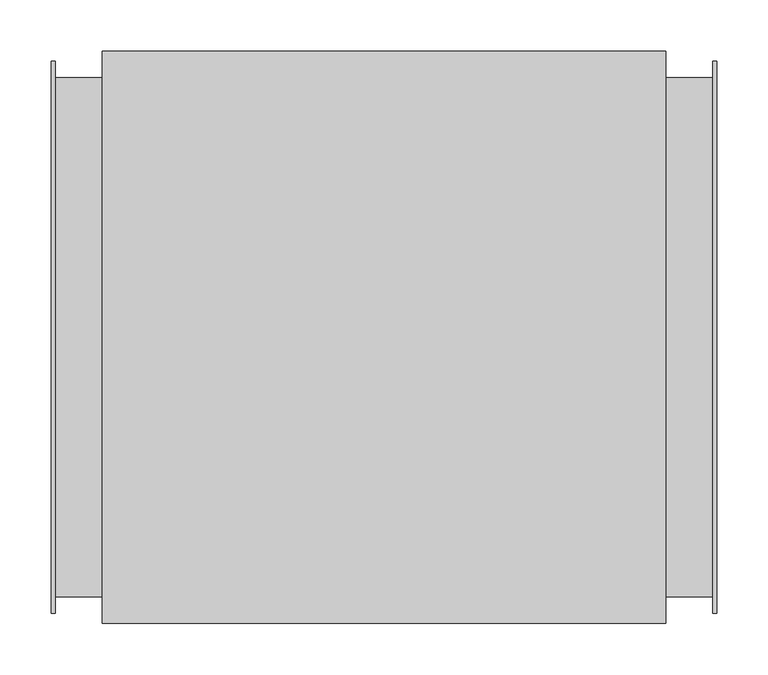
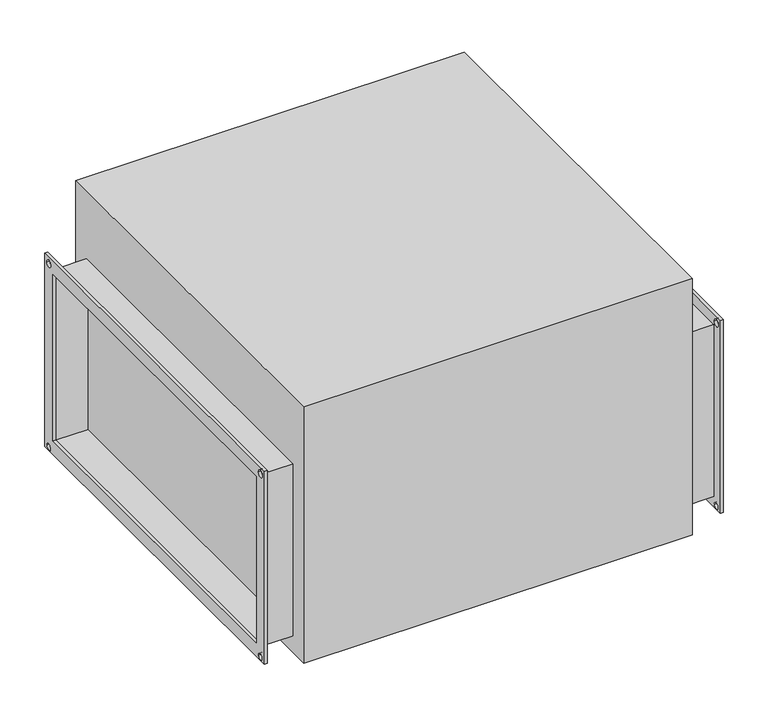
"""IFC4 building model written with IfcOpenShell, lengths in millimetres: proxy geometry."""

from ifc_helpers import new_model, si_unit, frame, origin, place, context, project, spatial, polyline, circle_curve, outline, extrude, source, transform, mapped, element, save
from ifc_brep_helpers import plane_surface, revolved_surface, advanced_brep


def mechanical_equipment_9b219624(model_context):
    return source(origin(), model_context, "Body", "SolidModel", [
        advanced_brep(
        [(321.5, 270.0, 145.0), (321.5, 270.0, -145.0), (321.5, 260.0, -145.0), (321.5, 265.0, -140.0), (321.5, 255.0, -140.0), (321.5, -260.0, -145.0), (321.5, -255.0, -140.0), (321.5, -265.0, -140.0), (321.5, -270.0, -145.0), (321.5, -270.0, 145.0), (321.5, 250.0, 125.0), (321.5, -250.0, 125.0), (321.5, -250.0, -125.0), (321.5, 250.0, -125.0), (321.5, 255.0, 135.0), (321.5, 265.0, 135.0), (321.5, -265.0, 135.0), (321.5, -255.0, 135.0), (325.5, 270.0, 145.0), (325.5, -270.0, 145.0), (325.5, -270.0, -145.0), (325.5, -260.0, -145.0), (325.5, -265.0, -140.0), (325.5, -255.0, -140.0), (325.5, 260.0, -145.0), (325.5, 255.0, -140.0), (325.5, 265.0, -140.0), (325.5, 270.0, -145.0), (325.5, 250.0, 125.0), (325.5, 250.0, -125.0), (325.5, -250.0, -125.0), (325.5, -250.0, 125.0), (325.5, 265.0, 135.0), (325.5, 255.0, 135.0), (325.5, -255.0, 135.0), (325.5, -265.0, 135.0)],
        [
            (0, 1),
            (1, 2),
            (2, 3, circle_curve(frame((321.5, 260.0, -140.0), z_axis=(1.0, 0.0, 0.0), x_axis=(0.0, 1.0, 0.0)), 5.0)),
            (3, 4, circle_curve(frame((321.5, 260.0, -140.0), z_axis=(1.0, 0.0, 0.0), x_axis=(0.0, 1.0, 0.0)), 5.0)),
            (4, 2, circle_curve(frame((321.5, 260.0, -140.0), z_axis=(1.0, 0.0, 0.0), x_axis=(0.0, 1.0, 0.0)), 5.0)),
            (2, 5),
            (5, 6, circle_curve(frame((321.5, -260.0, -140.0), z_axis=(1.0, 0.0, 0.0), x_axis=(0.0, 1.0, 0.0)), 5.0)),
            (6, 7, circle_curve(frame((321.5, -260.0, -140.0), z_axis=(1.0, 0.0, 0.0), x_axis=(0.0, 1.0, 0.0)), 5.0)),
            (7, 5, circle_curve(frame((321.5, -260.0, -140.0), z_axis=(1.0, 0.0, 0.0), x_axis=(0.0, 1.0, 0.0)), 5.0)),
            (5, 8),
            (8, 9),
            (9, 0),
            (10, 11),
            (11, 12),
            (12, 13),
            (13, 10),
            (14, 15, circle_curve(frame((321.5, 260.0, 135.0), z_axis=(1.0, 0.0, 0.0), x_axis=(0.0, 1.0, 0.0)), 5.0)),
            (15, 14, circle_curve(frame((321.5, 260.0, 135.0), z_axis=(1.0, 0.0, 0.0), x_axis=(0.0, 1.0, 0.0)), 5.0)),
            (16, 17, circle_curve(frame((321.5, -260.0, 135.0), z_axis=(1.0, 0.0, 0.0), x_axis=(0.0, 1.0, 0.0)), 5.0)),
            (17, 16, circle_curve(frame((321.5, -260.0, 135.0), z_axis=(1.0, 0.0, 0.0), x_axis=(0.0, 1.0, 0.0)), 5.0)),
            (18, 19),
            (19, 20),
            (20, 21),
            (21, 22, circle_curve(frame((325.5, -260.0, -140.0), z_axis=(-1.0, 0.0, 0.0), x_axis=(0.0, 1.0, 0.0)), 5.0)),
            (22, 23, circle_curve(frame((325.5, -260.0, -140.0), z_axis=(-1.0, 0.0, 0.0), x_axis=(0.0, 1.0, 0.0)), 5.0)),
            (23, 21, circle_curve(frame((325.5, -260.0, -140.0), z_axis=(-1.0, 0.0, 0.0), x_axis=(0.0, 1.0, 0.0)), 5.0)),
            (21, 24),
            (24, 25, circle_curve(frame((325.5, 260.0, -140.0), z_axis=(-1.0, 0.0, 0.0), x_axis=(0.0, 1.0, 0.0)), 5.0)),
            (25, 26, circle_curve(frame((325.5, 260.0, -140.0), z_axis=(-1.0, 0.0, 0.0), x_axis=(0.0, 1.0, 0.0)), 5.0)),
            (26, 24, circle_curve(frame((325.5, 260.0, -140.0), z_axis=(-1.0, 0.0, 0.0), x_axis=(0.0, 1.0, 0.0)), 5.0)),
            (24, 27),
            (27, 18),
            (28, 29),
            (29, 30),
            (30, 31),
            (31, 28),
            (32, 33, circle_curve(frame((325.5, 260.0, 135.0), z_axis=(-1.0, 0.0, 0.0), x_axis=(0.0, 1.0, 0.0)), 5.0)),
            (33, 32, circle_curve(frame((325.5, 260.0, 135.0), z_axis=(-1.0, 0.0, 0.0), x_axis=(0.0, 1.0, 0.0)), 5.0)),
            (34, 35, circle_curve(frame((325.5, -260.0, 135.0), z_axis=(-1.0, 0.0, 0.0), x_axis=(0.0, 1.0, 0.0)), 5.0)),
            (35, 34, circle_curve(frame((325.5, -260.0, 135.0), z_axis=(-1.0, 0.0, 0.0), x_axis=(0.0, 1.0, 0.0)), 5.0)),
            (13, 29),
            (28, 10),
            (12, 30),
            (11, 31),
            (9, 19),
            (18, 0),
            (8, 20),
            (1, 27),
            (14, 33),
            (32, 15),
            (16, 35),
            (34, 17),
            (7, 22),
            (23, 6),
            (4, 25),
            (26, 3),
        ],
        [
            plane_surface(frame((321.5, 250.0, -125.0), z_axis=(-1.0, 0.0, 0.0), x_axis=(0.0, 0.0, 1.0))),
            plane_surface(frame((325.5, 250.0, -125.0), z_axis=(1.0, 0.0, 0.0), x_axis=(0.0, 0.0, -1.0))),
            plane_surface(frame((325.5, 250.0, 125.0), z_axis=(0.0, -1.0, 0.0), x_axis=(-1.0, 0.0, 0.0))),
            plane_surface(frame((325.5, 250.0, -125.0), z_axis=(0.0, 0.0, 1.0), x_axis=(-1.0, 0.0, 0.0))),
            plane_surface(frame((325.5, -250.0, -125.0), z_axis=(0.0, 1.0, 0.0), x_axis=(-1.0, 0.0, 0.0))),
            plane_surface(frame((325.5, -250.0, 125.0), z_axis=(0.0, 0.0, -1.0), x_axis=(-1.0, 0.0, 0.0))),
            plane_surface(frame((325.5, 270.0, 145.0), z_axis=(0.0, 0.0, 1.0), x_axis=(-1.0, 0.0, 0.0))),
            plane_surface(frame((325.5, -270.0, 145.0), z_axis=(0.0, -1.0, 0.0), x_axis=(-1.0, 0.0, 0.0))),
            plane_surface(frame((325.5, -270.0, -145.0), z_axis=(0.0, 0.0, -1.0), x_axis=(-1.0, 0.0, 0.0))),
            plane_surface(frame((325.5, 270.0, -145.0), z_axis=(0.0, 1.0, 0.0), x_axis=(-1.0, 0.0, 0.0))),
            revolved_surface(polyline([(325.5, 265.0, 135.0), (321.5, 265.0, 135.0)]), (-325.5, 260.0, 135.0), (1.0, 0.0, 0.0)),
            revolved_surface(polyline([(325.5, -255.0, 135.0), (321.5, -255.0, 135.0)]), (0.0, -260.0, 135.0), (1.0, 0.0, 0.0)),
            revolved_surface(polyline([(325.5, -255.0, -140.0), (321.5, -255.0, -140.0)]), (0.0, -260.0, -140.0), (1.0, 0.0, 0.0)),
            revolved_surface(polyline([(325.5, 265.0, -140.0), (321.5, 265.0, -140.0)]), (0.0, 260.0, -140.0), (1.0, 0.0, 0.0)),
        ],
        [
            (0, [[1, 2, 3, 4, 5, 6, 7, 8, 9, 10, 11, 12], [13, 14, 15, 16], [17, 18], [19, 20]]),
            (1, [[21, 22, 23, 24, 25, 26, 27, 28, 29, 30, 31, 32], [33, 34, 35, 36], [37, 38], [39, 40]]),
            (2, [[-16, 41, -33, 42]]),
            (3, [[-15, 43, -34, -41]]),
            (4, [[-14, 44, -35, -43]]),
            (5, [[-13, -42, -36, -44]]),
            (6, [[-12, 45, -21, 46]]),
            (7, [[-11, 47, -22, -45]]),
            (8, [[-47, -10, -6, -2, 48, -31, -27, -23]]),
            (9, [[-1, -46, -32, -48]]),
            (10, [[49, -37, 50, -17]]),
            (10, [[-49, -18, -50, -38]]),
            (11, [[51, -39, 52, -19]]),
            (11, [[-51, -20, -52, -40]]),
            (12, [[53, -24, -26, 54, -7, -9]]),
            (12, [[-53, -8, -54, -25]]),
            (13, [[55, -28, -30, 56, -3, -5]]),
            (13, [[-55, -4, -56, -29]]),
        ],
    ),
        advanced_brep(
        [(-325.5, -270.0, 145.0), (-325.5, 270.0, 145.0), (-325.5, 270.0, -145.0), (-325.5, 260.0, -145.0), (-325.5, 265.0, -140.0), (-325.5, 255.0, -140.0), (-325.5, -260.0, -145.0), (-325.5, -255.0, -140.0), (-325.5, -265.0, -140.0), (-325.5, -270.0, -145.0), (-325.5, -250.0, 125.0), (-325.5, -250.0, -125.0), (-325.5, 250.0, -125.0), (-325.5, 250.0, 125.0), (-325.5, 255.0, 135.0), (-325.5, 265.0, 135.0), (-325.5, -265.0, 135.0), (-325.5, -255.0, 135.0), (-321.5, -270.0, 145.0), (-321.5, -270.0, -145.0), (-321.5, -260.0, -145.0), (-321.5, -265.0, -140.0), (-321.5, -255.0, -140.0), (-321.5, 260.0, -145.0), (-321.5, 255.0, -140.0), (-321.5, 265.0, -140.0), (-321.5, 270.0, -145.0), (-321.5, 270.0, 145.0), (-321.5, -250.0, 125.0), (-321.5, 250.0, 125.0), (-321.5, 250.0, -125.0), (-321.5, -250.0, -125.0), (-321.5, 265.0, 135.0), (-321.5, 255.0, 135.0), (-321.5, -255.0, 135.0), (-321.5, -265.0, 135.0)],
        [
            (0, 1),
            (1, 2),
            (2, 3),
            (3, 4, circle_curve(frame((-325.5, 260.0, -140.0), z_axis=(1.0, 0.0, 0.0), x_axis=(0.0, 1.0, 0.0)), 5.0)),
            (4, 5, circle_curve(frame((-325.5, 260.0, -140.0), z_axis=(1.0, 0.0, 0.0), x_axis=(0.0, 1.0, 0.0)), 5.0)),
            (5, 3, circle_curve(frame((-325.5, 260.0, -140.0), z_axis=(1.0, 0.0, 0.0), x_axis=(0.0, 1.0, 0.0)), 5.0)),
            (3, 6),
            (6, 7, circle_curve(frame((-325.5, -260.0, -140.0), z_axis=(1.0, 0.0, 0.0), x_axis=(0.0, 1.0, 0.0)), 5.0)),
            (7, 8, circle_curve(frame((-325.5, -260.0, -140.0), z_axis=(1.0, 0.0, 0.0), x_axis=(0.0, 1.0, 0.0)), 5.0)),
            (8, 6, circle_curve(frame((-325.5, -260.0, -140.0), z_axis=(1.0, 0.0, 0.0), x_axis=(0.0, 1.0, 0.0)), 5.0)),
            (6, 9),
            (9, 0),
            (10, 11),
            (11, 12),
            (12, 13),
            (13, 10),
            (14, 15, circle_curve(frame((-325.5, 260.0, 135.0), z_axis=(1.0, 0.0, 0.0), x_axis=(0.0, 1.0, 0.0)), 5.0)),
            (15, 14, circle_curve(frame((-325.5, 260.0, 135.0), z_axis=(1.0, 0.0, 0.0), x_axis=(0.0, 1.0, 0.0)), 5.0)),
            (16, 17, circle_curve(frame((-325.5, -260.0, 135.0), z_axis=(1.0, 0.0, 0.0), x_axis=(0.0, 1.0, 0.0)), 5.0)),
            (17, 16, circle_curve(frame((-325.5, -260.0, 135.0), z_axis=(1.0, 0.0, 0.0), x_axis=(0.0, 1.0, 0.0)), 5.0)),
            (18, 19),
            (19, 20),
            (20, 21, circle_curve(frame((-321.5, -260.0, -140.0), z_axis=(-1.0, 0.0, 0.0), x_axis=(0.0, 1.0, 0.0)), 5.0)),
            (21, 22, circle_curve(frame((-321.5, -260.0, -140.0), z_axis=(-1.0, 0.0, 0.0), x_axis=(0.0, 1.0, 0.0)), 5.0)),
            (22, 20, circle_curve(frame((-321.5, -260.0, -140.0), z_axis=(-1.0, 0.0, 0.0), x_axis=(0.0, 1.0, 0.0)), 5.0)),
            (20, 23),
            (23, 24, circle_curve(frame((-321.5, 260.0, -140.0), z_axis=(-1.0, 0.0, 0.0), x_axis=(0.0, 1.0, 0.0)), 5.0)),
            (24, 25, circle_curve(frame((-321.5, 260.0, -140.0), z_axis=(-1.0, 0.0, 0.0), x_axis=(0.0, 1.0, 0.0)), 5.0)),
            (25, 23, circle_curve(frame((-321.5, 260.0, -140.0), z_axis=(-1.0, 0.0, 0.0), x_axis=(0.0, 1.0, 0.0)), 5.0)),
            (23, 26),
            (26, 27),
            (27, 18),
            (28, 29),
            (29, 30),
            (30, 31),
            (31, 28),
            (32, 33, circle_curve(frame((-321.5, 260.0, 135.0), z_axis=(-1.0, 0.0, 0.0), x_axis=(0.0, 1.0, 0.0)), 5.0)),
            (33, 32, circle_curve(frame((-321.5, 260.0, 135.0), z_axis=(-1.0, 0.0, 0.0), x_axis=(0.0, 1.0, 0.0)), 5.0)),
            (34, 35, circle_curve(frame((-321.5, -260.0, 135.0), z_axis=(-1.0, 0.0, 0.0), x_axis=(0.0, 1.0, 0.0)), 5.0)),
            (35, 34, circle_curve(frame((-321.5, -260.0, 135.0), z_axis=(-1.0, 0.0, 0.0), x_axis=(0.0, 1.0, 0.0)), 5.0)),
            (9, 19),
            (18, 0),
            (2, 26),
            (1, 27),
            (13, 29),
            (28, 10),
            (12, 30),
            (11, 31),
            (14, 33),
            (32, 15),
            (16, 35),
            (34, 17),
            (8, 21),
            (22, 7),
            (5, 24),
            (25, 4),
        ],
        [
            plane_surface(frame((-325.5, -270.0, 145.0), z_axis=(-1.0, 0.0, 0.0), x_axis=(0.0, 0.0, 1.0))),
            plane_surface(frame((-321.5, -270.0, 145.0), z_axis=(1.0, 0.0, 0.0), x_axis=(0.0, 0.0, -1.0))),
            plane_surface(frame((-321.5, -270.0, 145.0), z_axis=(0.0, -1.0, 0.0), x_axis=(-1.0, 0.0, 0.0))),
            plane_surface(frame((-321.5, -270.0, -145.0), z_axis=(0.0, 0.0, -1.0), x_axis=(-1.0, 0.0, 0.0))),
            plane_surface(frame((-321.5, 270.0, -145.0), z_axis=(0.0, 1.0, 0.0), x_axis=(-1.0, 0.0, 0.0))),
            plane_surface(frame((-321.5, 270.0, 145.0), z_axis=(0.0, 0.0, 1.0), x_axis=(-1.0, 0.0, 0.0))),
            plane_surface(frame((-321.5, -250.0, 125.0), z_axis=(0.0, 0.0, -1.0), x_axis=(-1.0, 0.0, 0.0))),
            plane_surface(frame((-321.5, 250.0, 125.0), z_axis=(0.0, -1.0, 0.0), x_axis=(-1.0, 0.0, 0.0))),
            plane_surface(frame((-321.5, 250.0, -125.0), z_axis=(0.0, 0.0, 1.0), x_axis=(-1.0, 0.0, 0.0))),
            plane_surface(frame((-321.5, -250.0, -125.0), z_axis=(0.0, 1.0, 0.0), x_axis=(-1.0, 0.0, 0.0))),
            revolved_surface(polyline([(-321.5, 265.0, 135.0), (-325.5, 265.0, 135.0)]), (-325.5, 260.0, 135.0), (1.0, 0.0, 0.0)),
            revolved_surface(polyline([(-321.5, -255.0, 135.0), (-325.5, -255.0, 135.0)]), (0.0, -260.0, 135.0), (1.0, 0.0, 0.0)),
            revolved_surface(polyline([(-321.5, -255.0, -140.0), (-325.5, -255.0, -140.0)]), (0.0, -260.0, -140.0), (1.0, 0.0, 0.0)),
            revolved_surface(polyline([(-321.5, 265.0, -140.0), (-325.5, 265.0, -140.0)]), (0.0, 260.0, -140.0), (1.0, 0.0, 0.0)),
        ],
        [
            (0, [[1, 2, 3, 4, 5, 6, 7, 8, 9, 10, 11, 12], [13, 14, 15, 16], [17, 18], [19, 20]]),
            (1, [[21, 22, 23, 24, 25, 26, 27, 28, 29, 30, 31, 32], [33, 34, 35, 36], [37, 38], [39, 40]]),
            (2, [[-12, 41, -21, 42]]),
            (3, [[-41, -11, -7, -3, 43, -30, -26, -22]]),
            (4, [[-2, 44, -31, -43]]),
            (5, [[-1, -42, -32, -44]]),
            (6, [[-16, 45, -33, 46]]),
            (7, [[-15, 47, -34, -45]]),
            (8, [[-14, 48, -35, -47]]),
            (9, [[-13, -46, -36, -48]]),
            (10, [[49, -37, 50, -17]]),
            (10, [[-49, -18, -50, -38]]),
            (11, [[51, -39, 52, -19]]),
            (11, [[-51, -20, -52, -40]]),
            (12, [[53, -23, -25, 54, -8, -10]]),
            (12, [[-53, -9, -54, -24]]),
            (13, [[55, -27, -29, 56, -4, -6]]),
            (13, [[-55, -5, -56, -28]]),
        ],
    ),
        extrude(outline(polyline([(275.5, 280.0), (275.5, -280.0), (-275.5, -280.0), (-275.5, 280.0), (275.5, 280.0)])), frame((0.0, 0.0, -155.0), z_axis=(0.0, 0.0, 1.0), x_axis=(1.0, 0.0, 0.0)), (0.0, 0.0, 1.0), 385.0),
        extrude(outline(polyline([(-254.0, 129.0), (254.0, 129.0), (254.0, -129.0), (-254.0, -129.0), (-254.0, 129.0)]), holes=[polyline([(250.0, 125.0), (-250.0, 125.0), (-250.0, -125.0), (250.0, -125.0), (250.0, 125.0)])]), frame((-321.5, 0.0, 0.0), z_axis=(1.0, 0.0, 0.0), x_axis=(0.0, 1.0, 0.0)), (0.0, 0.0, 1.0), 46.0),
        extrude(outline(polyline([(-254.0, 129.0), (254.0, 129.0), (254.0, -129.0), (-254.0, -129.0), (-254.0, 129.0)]), holes=[polyline([(250.0, 125.0), (-250.0, 125.0), (-250.0, -125.0), (250.0, -125.0), (250.0, 125.0)])]), frame((275.5, 0.0, 0.0), z_axis=(1.0, 0.0, 0.0), x_axis=(0.0, 1.0, 0.0)), (0.0, 0.0, 1.0), 46.0),
    ])


if __name__ == "__main__":
    model = new_model("IFC4")
    model_context = context("Model", 3, world=origin())
    ifc_project = project(units=[si_unit("LENGTHUNIT", "METRE", prefix="MILLI")], contexts=[model_context])
    site = spatial("IfcSite", under=ifc_project)
    building = spatial("IfcBuilding", under=site)
    placement = place(None, origin())
    mechanical_equipment_shape = mechanical_equipment_9b219624(model_context)
    element("IfcBuildingElementProxy", 1, Name="Mechanical Equipment", at=placement, inside=building, context=model_context, shape_type="MappedRepresentation", body=[
        mapped(mechanical_equipment_shape, transform((0.0, 0.0, 0.0), x_axis=(1.0, 0.0, 0.0), y_axis=(0.0, 1.0, 0.0), z_axis=(0.0, 0.0, 1.0))),
    ])
    save(model, "model.ifc")
